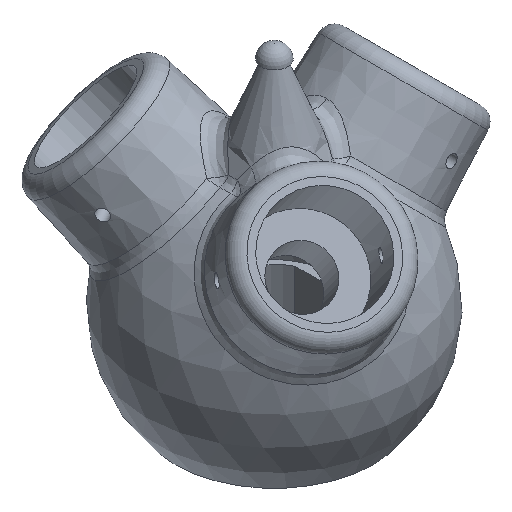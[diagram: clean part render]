
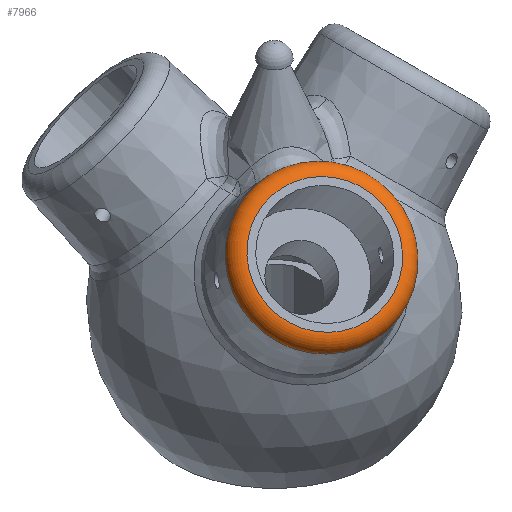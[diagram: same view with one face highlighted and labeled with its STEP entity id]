
A CAD part, isometric view. The second image highlights one B-rep face of the part: STEP entity #7966.
In plain terms, the highlighted toroidal (fillet/blend) face has major radius 12.633 mm and minor radius 3 mm.
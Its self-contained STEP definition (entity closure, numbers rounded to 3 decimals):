
#1767 = CONICAL_SURFACE('',#1768,17.5,0.045);
#1768 = AXIS2_PLACEMENT_3D('',#1769,#1770,#1771);
#1769 = CARTESIAN_POINT('',(0.,0.,0.));
#1770 = DIRECTION('',(0.354,0.612,-0.707));
#1771 = DIRECTION('',(0.,0.756,0.655)
  );
#5129 = VERTEX_POINT('',#5130);
#5130 = CARTESIAN_POINT('',(-14.544,-13.375,
    39.32));
#5151 = EDGE_CURVE('',#5129,#5129,#5152,.T.);
#5152 = SURFACE_CURVE('',#5153,(#5158,#5165),.PCURVE_S1.);
#5153 = CIRCLE('',#5154,15.63);
#5154 = AXIS2_PLACEMENT_3D('',#5155,#5156,#5157);
#5155 = CARTESIAN_POINT('',(-14.544,-25.191,
    29.088));
#5156 = DIRECTION('',(-0.354,-0.612,0.707));
#5157 = DIRECTION('',(0.,0.756,0.655)
  );
#5158 = PCURVE('',#1767,#5159);
#5159 = DEFINITIONAL_REPRESENTATION('',(#5160),#5164);
#5160 = LINE('',#5161,#5162);
#5161 = CARTESIAN_POINT('',(0.,-41.136));
#5162 = VECTOR('',#5163,1.);
#5163 = DIRECTION('',(-1.,-0.));
#5164 = ( GEOMETRIC_REPRESENTATION_CONTEXT(2) 
PARAMETRIC_REPRESENTATION_CONTEXT() REPRESENTATION_CONTEXT('2D SPACE',''
  ) );
#5165 = PCURVE('',#5166,#5171);
#5166 = TOROIDAL_SURFACE('',#5167,12.633,3.);
#5167 = AXIS2_PLACEMENT_3D('',#5168,#5169,#5170);
#5168 = CARTESIAN_POINT('',(-14.496,-25.107,
    28.991));
#5169 = DIRECTION('',(-0.354,-0.612,0.707));
#5170 = DIRECTION('',(0.,0.756,0.655)
  );
#5171 = DEFINITIONAL_REPRESENTATION('',(#5172),#5176);
#5172 = LINE('',#5173,#5174);
#5173 = CARTESIAN_POINT('',(0.,0.045));
#5174 = VECTOR('',#5175,1.);
#5175 = DIRECTION('',(1.,0.));
#5176 = ( GEOMETRIC_REPRESENTATION_CONTEXT(2) 
PARAMETRIC_REPRESENTATION_CONTEXT() REPRESENTATION_CONTEXT('2D SPACE',''
  ) );
#7966 = ADVANCED_FACE('',(#7967),#5166,.T.);
#7967 = FACE_BOUND('',#7968,.T.);
#7968 = EDGE_LOOP('',(#7969,#7991,#7992,#7993));
#7969 = ORIENTED_EDGE('',*,*,#7970,.F.);
#7970 = EDGE_CURVE('',#5129,#7971,#7973,.T.);
#7971 = VERTEX_POINT('',#7972);
#7972 = CARTESIAN_POINT('',(-15.556,-17.395,
    39.383));
#7973 = SEAM_CURVE('',#7974,(#7979,#7985),.PCURVE_S1.);
#7974 = CIRCLE('',#7975,3.);
#7975 = AXIS2_PLACEMENT_3D('',#7976,#7977,#7978);
#7976 = CARTESIAN_POINT('',(-14.496,-15.557,
    37.262));
#7977 = DIRECTION('',(0.935,-0.231,0.267));
#7978 = DIRECTION('',(0.,0.756,0.655)
  );
#7979 = PCURVE('',#5166,#7980);
#7980 = DEFINITIONAL_REPRESENTATION('',(#7981),#7984);
#7981 = B_SPLINE_CURVE_WITH_KNOTS('',1,(#7982,#7983),.UNSPECIFIED.,.F.,
  .F.,(2,2),(0.045,1.571),
  .PIECEWISE_BEZIER_KNOTS.);
#7982 = CARTESIAN_POINT('',(0.,0.045));
#7983 = CARTESIAN_POINT('',(0.,1.571));
#7984 = ( GEOMETRIC_REPRESENTATION_CONTEXT(2) 
PARAMETRIC_REPRESENTATION_CONTEXT() REPRESENTATION_CONTEXT('2D SPACE',''
  ) );
#7985 = PCURVE('',#5166,#7986);
#7986 = DEFINITIONAL_REPRESENTATION('',(#7987),#7990);
#7987 = B_SPLINE_CURVE_WITH_KNOTS('',1,(#7988,#7989),.UNSPECIFIED.,.F.,
  .F.,(2,2),(0.045,1.571),
  .PIECEWISE_BEZIER_KNOTS.);
#7988 = CARTESIAN_POINT('',(6.283,0.045));
#7989 = CARTESIAN_POINT('',(6.283,1.571));
#7990 = ( GEOMETRIC_REPRESENTATION_CONTEXT(2) 
PARAMETRIC_REPRESENTATION_CONTEXT() REPRESENTATION_CONTEXT('2D SPACE',''
  ) );
#7991 = ORIENTED_EDGE('',*,*,#5151,.T.);
#7992 = ORIENTED_EDGE('',*,*,#7970,.T.);
#7993 = ORIENTED_EDGE('',*,*,#7994,.F.);
#7994 = EDGE_CURVE('',#7971,#7971,#7995,.T.);
#7995 = SURFACE_CURVE('',#7996,(#8001,#8008),.PCURVE_S1.);
#7996 = CIRCLE('',#7997,12.633);
#7997 = AXIS2_PLACEMENT_3D('',#7998,#7999,#8000);
#7998 = CARTESIAN_POINT('',(-15.556,-26.944,
    31.113));
#7999 = DIRECTION('',(-0.354,-0.612,0.707));
#8000 = DIRECTION('',(0.,0.756,0.655)
  );
#8001 = PCURVE('',#5166,#8002);
#8002 = DEFINITIONAL_REPRESENTATION('',(#8003),#8007);
#8003 = LINE('',#8004,#8005);
#8004 = CARTESIAN_POINT('',(0.,1.571));
#8005 = VECTOR('',#8006,1.);
#8006 = DIRECTION('',(1.,0.));
#8007 = ( GEOMETRIC_REPRESENTATION_CONTEXT(2) 
PARAMETRIC_REPRESENTATION_CONTEXT() REPRESENTATION_CONTEXT('2D SPACE',''
  ) );
#8008 = PCURVE('',#8009,#8014);
#8009 = PLANE('',#8010);
#8010 = AXIS2_PLACEMENT_3D('',#8011,#8012,#8013);
#8011 = CARTESIAN_POINT('',(-15.556,-26.944,
    31.113));
#8012 = DIRECTION('',(-0.354,-0.612,0.707));
#8013 = DIRECTION('',(0.,0.756,0.655)
  );
#8014 = DEFINITIONAL_REPRESENTATION('',(#8015),#8019);
#8015 = CIRCLE('',#8016,12.633);
#8016 = AXIS2_PLACEMENT_2D('',#8017,#8018);
#8017 = CARTESIAN_POINT('',(0.,0.));
#8018 = DIRECTION('',(1.,0.));
#8019 = ( GEOMETRIC_REPRESENTATION_CONTEXT(2) 
PARAMETRIC_REPRESENTATION_CONTEXT() REPRESENTATION_CONTEXT('2D SPACE',''
  ) );
